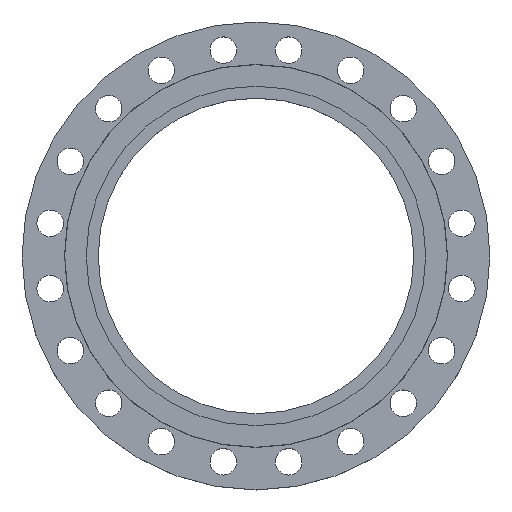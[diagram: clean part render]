
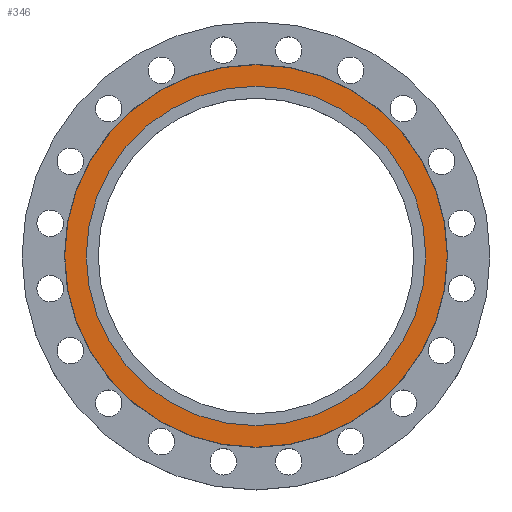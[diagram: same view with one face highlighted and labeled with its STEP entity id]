
A CAD part, top view. The second image highlights one B-rep face of the part: STEP entity #346.
In plain terms, the highlighted planar face has unit normal (0, 0, 1).
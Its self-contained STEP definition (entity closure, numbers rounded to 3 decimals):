
#25 = CARTESIAN_POINT ( 'NONE',  ( 0., 0., 0. ) ) ;
#69 = DIRECTION ( 'NONE',  ( 0., 0., -1. ) ) ;
#74 = VERTEX_POINT ( 'NONE', #1372 ) ;
#90 = CARTESIAN_POINT ( 'NONE',  ( 0., 0., 0. ) ) ;
#100 = DIRECTION ( 'NONE',  ( 1., 0., 0. ) ) ;
#236 = PLANE ( 'NONE',  #788 ) ;
#249 = CARTESIAN_POINT ( 'NONE',  ( 248.5, 0., 0. ) ) ;
#316 = ORIENTED_EDGE ( 'NONE', *, *, #1269, .T. ) ;
#346 = ADVANCED_FACE ( 'NONE', ( #961, #1619 ), #236, .T. ) ;
#353 = ORIENTED_EDGE ( 'NONE', *, *, #1350, .F. ) ;
#369 = VERTEX_POINT ( 'NONE', #249 ) ;
#395 = EDGE_LOOP ( 'NONE', ( #316, #535 ) ) ;
#535 = ORIENTED_EDGE ( 'NONE', *, *, #1379, .T. ) ;
#596 = DIRECTION ( 'NONE',  ( 0., 0., -1. ) ) ;
#647 = DIRECTION ( 'NONE',  ( -1., 0., 0. ) ) ;
#653 = CARTESIAN_POINT ( 'NONE',  ( 0., 0., 0. ) ) ;
#670 = DIRECTION ( 'NONE',  ( 0., 0., -1. ) ) ;
#788 = AXIS2_PLACEMENT_3D ( 'NONE', #813, #1477, #100 ) ;
#813 = CARTESIAN_POINT ( 'NONE',  ( 0., 0., 0. ) ) ;
#961 = FACE_OUTER_BOUND ( 'NONE', #1749, .T. ) ;
#978 = VERTEX_POINT ( 'NONE', #1042 ) ;
#1042 = CARTESIAN_POINT ( 'NONE',  ( -248.5, 0., 0. ) ) ;
#1131 = CIRCLE ( 'NONE', #1137, 248.5 ) ;
#1137 = AXIS2_PLACEMENT_3D ( 'NONE', #25, #596, #1211 ) ;
#1211 = DIRECTION ( 'NONE',  ( -1., 0., 0. ) ) ;
#1231 = CARTESIAN_POINT ( 'NONE',  ( 280., 0., 0. ) ) ;
#1261 = CIRCLE ( 'NONE', #1268, 280. ) ;
#1268 = AXIS2_PLACEMENT_3D ( 'NONE', #1438, #69, #647 ) ;
#1269 = EDGE_CURVE ( 'NONE', #978, #369, #1131, .T. ) ;
#1276 = DIRECTION ( 'NONE',  ( 0., 0., -1. ) ) ;
#1301 = DIRECTION ( 'NONE',  ( -1., 0., 0. ) ) ;
#1312 = CIRCLE ( 'NONE', #1317, 248.5 ) ;
#1317 = AXIS2_PLACEMENT_3D ( 'NONE', #653, #1276, #1813 ) ;
#1350 = EDGE_CURVE ( 'NONE', #1666, #74, #1261, .T. ) ;
#1372 = CARTESIAN_POINT ( 'NONE',  ( -280., 0., 0. ) ) ;
#1373 = CIRCLE ( 'NONE', #1381, 280. ) ;
#1379 = EDGE_CURVE ( 'NONE', #369, #978, #1312, .T. ) ;
#1381 = AXIS2_PLACEMENT_3D ( 'NONE', #90, #670, #1301 ) ;
#1424 = EDGE_CURVE ( 'NONE', #74, #1666, #1373, .T. ) ;
#1438 = CARTESIAN_POINT ( 'NONE',  ( 0., 0., 0. ) ) ;
#1477 = DIRECTION ( 'NONE',  ( 0., 0., 1. ) ) ;
#1619 = FACE_BOUND ( 'NONE', #395, .T. ) ;
#1666 = VERTEX_POINT ( 'NONE', #1231 ) ;
#1749 = EDGE_LOOP ( 'NONE', ( #1847, #353 ) ) ;
#1813 = DIRECTION ( 'NONE',  ( -1., 0., 0. ) ) ;
#1847 = ORIENTED_EDGE ( 'NONE', *, *, #1424, .F. ) ;
